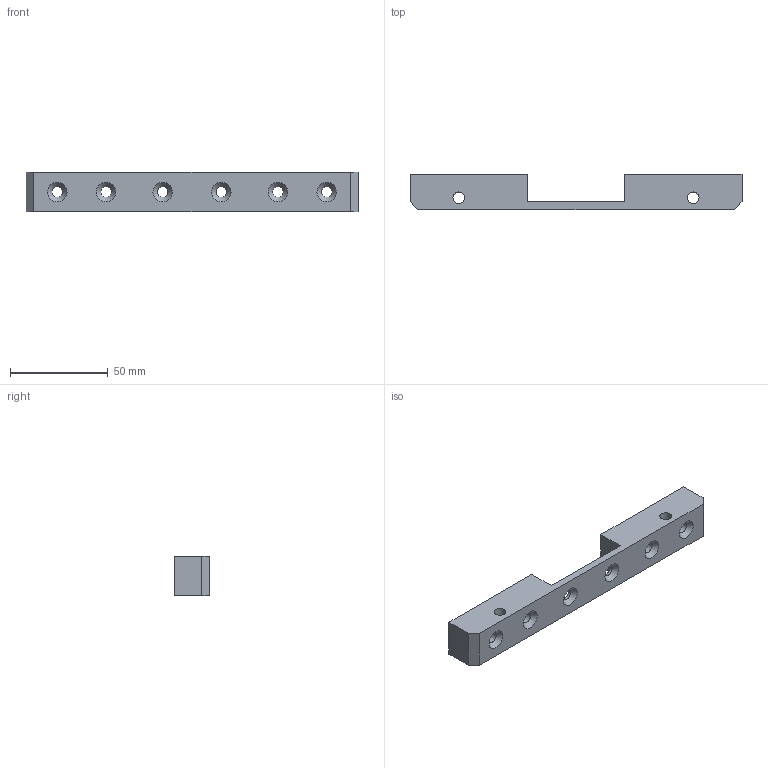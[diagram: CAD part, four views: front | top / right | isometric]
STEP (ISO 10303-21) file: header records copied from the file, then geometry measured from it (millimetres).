
FILE_DESCRIPTION( ( 'Unknown' ), '1' );
FILE_NAME( 'F:/navkite transat/construction/2016/3D ET ASSEMBLAGES/desal/DES 06.stp', 'Unknown', ( 'GMA' ), ( 'Unknown' ), 'XStep 1.0', 'Unknown', ' ' );
FILE_SCHEMA( ( 'automotive_design' ) );
Length unit declared in the file: millimetre
Products named in the file (1): 1
Bounding box: 170 x 18 x 20 mm (x, y, z)
Volume: 43313.7 mm3; surface area: 14470.7 mm2
Topology: 1 solids, 1 shells, 28 faces, 80 edges, 54 vertices
Faces by surface type: plane 12, cylinder 10, cone 6
Full cylindrical faces by diameter (mm): 3.242 x2, 5.5 x6, 6 x2
Entity records: 1146 total; most frequent: CARTESIAN_POINT 229, DIRECTION 136, ORIENTED_EDGE 112, EDGE_LOOP 64, EDGE_CURVE 56, AXIS2_PLACEMENT_3D 53, VERTEX_POINT 46, FACE_OUTER_BOUND 38
